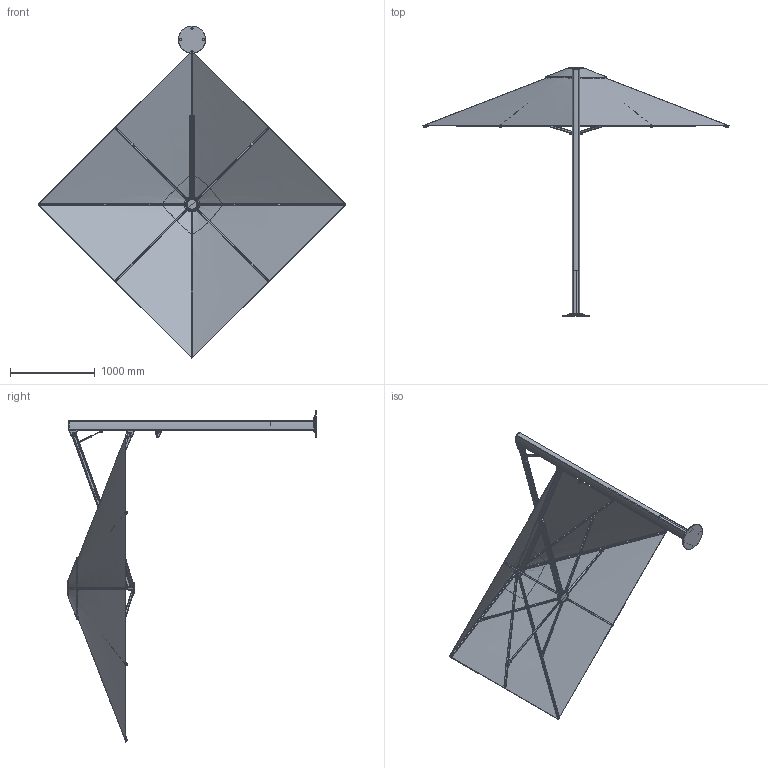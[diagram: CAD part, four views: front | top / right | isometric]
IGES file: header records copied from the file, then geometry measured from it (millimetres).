
Start section: SolidWorks IGES file using analytic representation for surfaces
Global section: file name: S:\RESEARCH and DEVELOPMENT\UnitySerenity Simple CAD Models\1. Export CAD\IGES Files\Serenity 2.5M Square.IGS; native system: SolidWorks 2017; preprocessor: SolidWorks 2017; author: Peter; date: 200618.171025; units: millimetre
Bounding box: 3622.15 x 2930.5 x 3911.92 mm (x, y, z)
Surface area: 19931283.3 mm2 (no closed solid volume)
Topology: 0 solids, 0 shells, 1591 faces, 21929 edges, 21917 vertices
Faces by surface type: bspline 800, revolution 791
